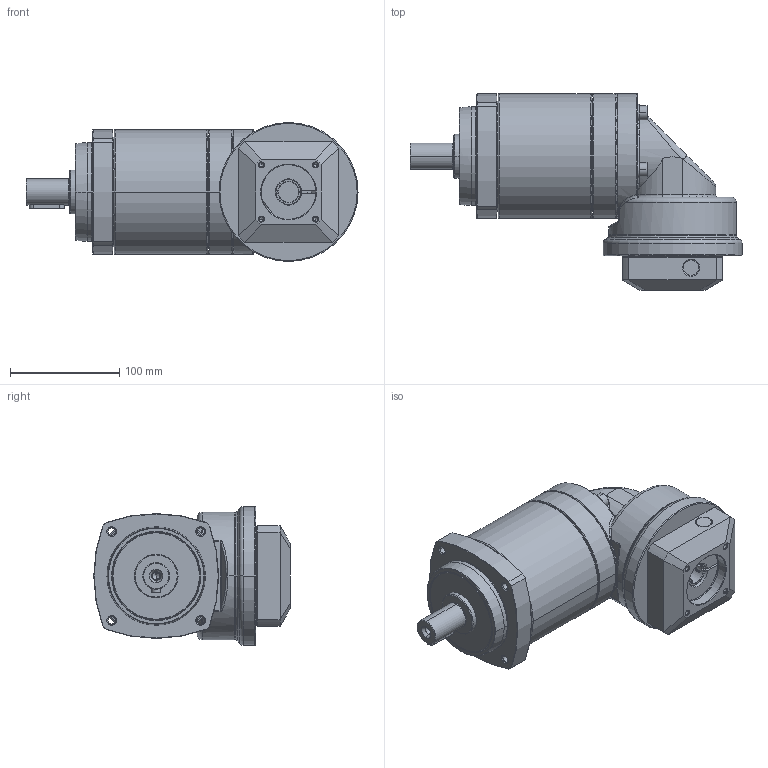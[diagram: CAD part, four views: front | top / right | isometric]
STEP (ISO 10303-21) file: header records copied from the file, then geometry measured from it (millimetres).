
FILE_DESCRIPTION((''),'2;1');
FILE_NAME('PS2R-D_2ST_19-P0411400101_ASM','2016-06-01T',('d01943'),(''),'PRO/ENGINEER BY PARAMETRIC TECHNOLOGY CORPORATION, 2008410','PRO/ENGINEER BY PARAMETRIC TECHNOLOGY CORPORATION, 2008410','');
FILE_SCHEMA(('CONFIG_CONTROL_DESIGN'));
Length unit declared in the file: millimetre
Products named in the file (12): P1328410001; P0251400001; P0350401401; P1349400001; P1017400001; P0713400001; P0503400008; P1350400001; P0411400101; P1702500001; 2111B108035; PS2R-D_2ST_19-P0411400101_ASM
Assembly tree (14 placements, depth 2):
  PS2R-D_2ST_19-P0411400101_ASM
    P1328410001
    P0251400001
    P0350401401
    P1349400001
    P1017400001
    P0713400001
    P0503400008
    P1350400001
    P0411400101
    P1702500001
    2111B108035  x4
Bounding box: 303.5 x 179.5 x 127 mm (x, y, z)
Volume: 1662979.2 mm3; surface area: 337217.8 mm2
Topology: 14 solids, 14 shells, 715 faces, 1579 edges, 914 vertices
Faces by surface type: cylinder 218, cone 212, plane 155, torus 96, bspline 34
Entity records: 22906 total; most frequent: CARTESIAN_POINT 9093, DIRECTION 3049, ORIENTED_EDGE 2682, EDGE_CURVE 1341, AXIS2_PLACEMENT_3D 1291, VERTEX_POINT 794, EDGE_LOOP 697, CIRCLE 683
